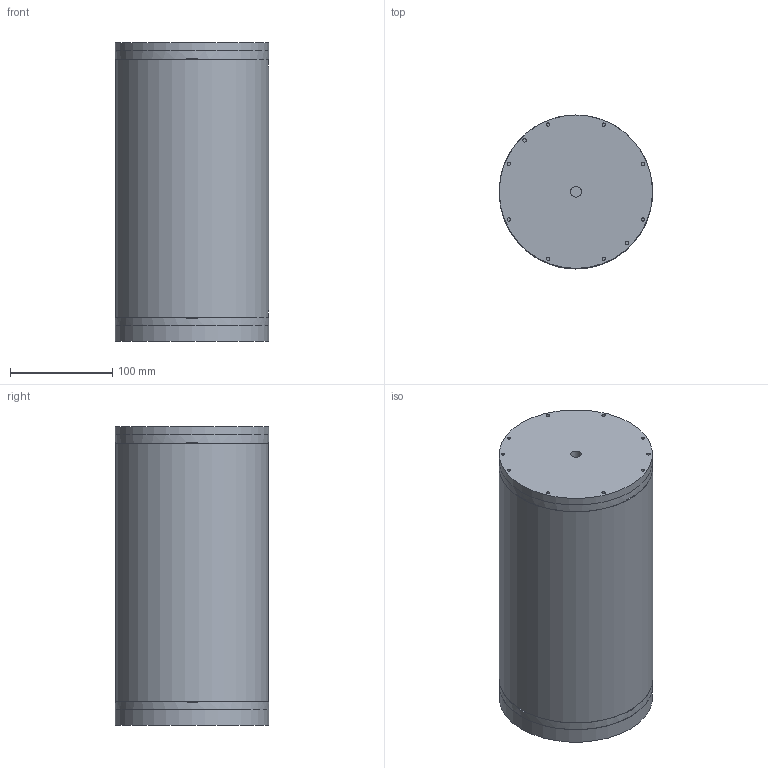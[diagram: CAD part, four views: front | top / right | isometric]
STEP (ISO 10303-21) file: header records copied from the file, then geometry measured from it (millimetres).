
FILE_DESCRIPTION(/* description */ (''),/* implementation_level */ '2;1');
FILE_NAME(/* name */ 'assembly_150mm_r1.step',/* time_stamp */ '2025-12-24T02:10:15+03:00',/* author */ (''),/* organization */ (''),/* preprocessor_version */ 'ST-DEVELOPER v20.1',/* originating_system */ 'Autodesk Translation Framework v14.21.0.0',/* authorisation */ '');
FILE_SCHEMA (('AUTOMOTIVE_DESIGN { 1 0 10303 214 3 1 1 }'));
Length unit declared in the file: millimetre
Products named in the file (4): Flange 150mm; Cap 150mm; 150mm tube; Acrylic Cap 150mm
Assembly tree (3 placements, depth 2):
  Flange 150mm
    Cap 150mm
    150mm tube
    Acrylic Cap 150mm
Bounding box: 150.17 x 150.23 x 292 mm (x, y, z)
Volume: 1393172.4 mm3; surface area: 418849.8 mm2
Topology: 5 solids, 5 shells, 263 faces, 673 edges, 436 vertices
Faces by surface type: cylinder 131, plane 98, cone 30, torus 4
Full cylindrical faces by diameter (mm): 3.3 x48, 10.5 x1, 109.6 x1, 119.6 x3, 123.6 x3, 131 x2, 134 x3, 136 x1, 137 x6, 137.4 x2, 150 x5
Entity records: 8463 total; most frequent: DIRECTION 1545, CARTESIAN_POINT 1488, ORIENTED_EDGE 1306, EDGE_CURVE 653, AXIS2_PLACEMENT_3D 629, VERTEX_POINT 436, EDGE_LOOP 403, CIRCLE 358
